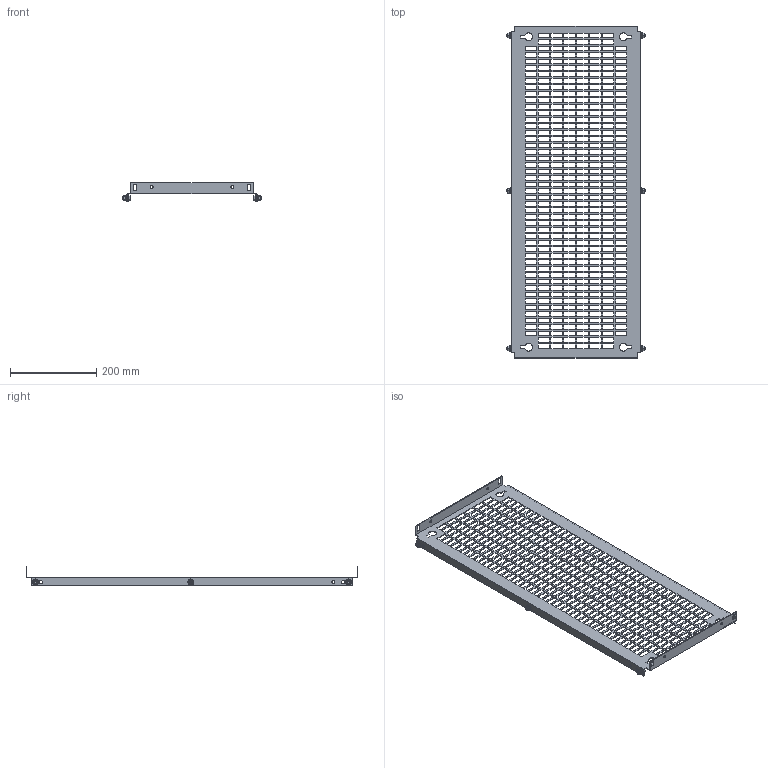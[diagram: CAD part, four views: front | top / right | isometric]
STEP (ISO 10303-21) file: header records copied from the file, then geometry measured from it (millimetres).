
FILE_DESCRIPTION(('Open CASCADE Model'),'2;1');
FILE_NAME('Open CASCADE Shape Model','2025-02-19T16:48:59',('Author'),( 'Open CASCADE'),'Open CASCADE STEP processor 7.8','Open CASCADE 7.8' ,'Unknown');
FILE_SCHEMA(('AUTOMOTIVE_DESIGN { 1 0 10303 214 1 1 1 1 }'));
Length unit declared in the file: millimetre
Products named in the file (4): Compound1; Solid1; Solid2; Solid3
Assembly tree (13 placements, depth 2):
  Compound1
    Solid1
    Solid2  x6
    Solid3  x6
Bounding box: 320 x 769 x 43 mm (x, y, z)
Volume: 323258.3 mm3; surface area: 385095.3 mm2
Topology: 13 solids, 13 shells, 1934 faces, 5546 edges, 3644 vertices
Faces by surface type: plane 1704, cone 102, bspline 72, cylinder 38, torus 18
Full cylindrical faces by diameter (mm): 5 x6, 6 x12, 7 x16
Entity records: 57132 total; most frequent: CARTESIAN_POINT 10579, ORIENTED_EDGE 9962, DIRECTION 8324, EDGE_CURVE 4981, LINE 4816, VECTOR 4816, VERTEX_POINT 3314, FACE_BOUND 2493
